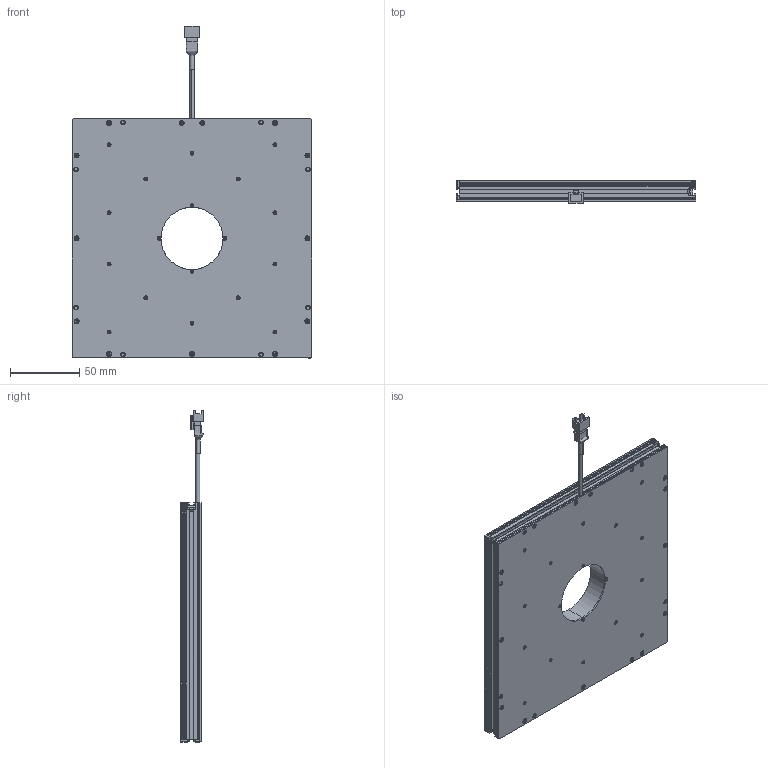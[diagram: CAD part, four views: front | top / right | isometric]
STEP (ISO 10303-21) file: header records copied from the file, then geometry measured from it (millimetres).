
FILE_DESCRIPTION (( 'STEP AP214' ), '1' );
FILE_NAME ('TMDF3017D102A_VDFHP-160160.STEP', '2023-04-17T02:13:48', ( '' ), ( '' ), 'SwSTEP 2.0', 'SolidWorks 2018', '' );
FILE_SCHEMA (( 'AUTOMOTIVE_DESIGN' ));
Length unit declared in the file: millimetre
Products named in the file (1): TMDF3017D102A_VDFHP-160160
Bounding box: 173 x 16.55 x 240.19 mm (x, y, z)
Surface area: 120458.2 mm2 (no closed solid volume)
Topology: 0 solids, 62 shells, 789 faces, 2731 edges, 1966 vertices
Faces by surface type: plane 491, cylinder 212, cone 84, bspline 2
Entity records: 39490 total; most frequent: CARTESIAN_POINT 7057, DIRECTION 4931, ORIENTED_EDGE 4366, EDGE_CURVE 2731, VERTEX_POINT 1966, LINE 1927, VECTOR 1927, AXIS2_PLACEMENT_3D 1502
